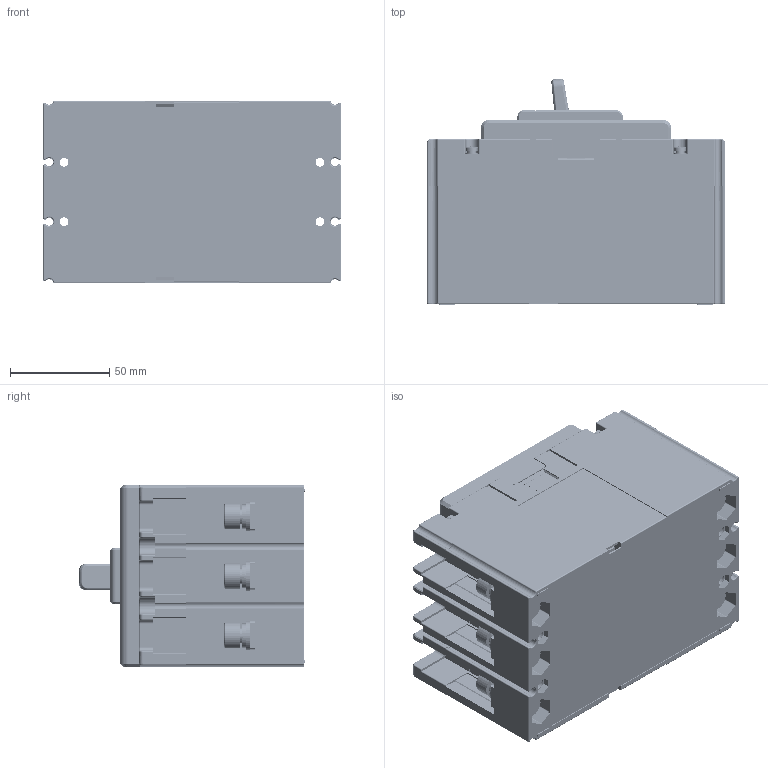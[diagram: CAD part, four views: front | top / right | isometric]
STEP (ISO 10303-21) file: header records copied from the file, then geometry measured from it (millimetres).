
FILE_DESCRIPTION((''),'2;1');
FILE_NAME('CDM3V-125BF_3300_125A_ASM_1_ASM','2025-04-28T',('Administrator'),(''),'PRO/ENGINEER BY PARAMETRIC TECHNOLOGY CORPORATION, 2015440','PRO/ENGINEER BY PARAMETRIC TECHNOLOGY CORPORATION, 2015440','');
FILE_SCHEMA(('CONFIG_CONTROL_DESIGN'));
Products named in the file (54): JZ8024044900_53_1_1; GB_T809_M3_5X12_4_1_1; 5024044900_ASM_141_ASM_1_ASM_1_ASM; 8585065400_6_1_1; 5551073200_ASM_6_ASM_1_ASM_1; 8775008900_13_1_1; MANIFOLD_SOLID_BREP_81877_1_1; 8505030200_13_ASM_1_ASM_1_ASM; 5551102700_ASM_15_ASM_1_ASM_1_ASM; 8964011500_6_1_1; 5551102800_ASM_13_ASM_1_ASM_1_ASM; 5551102900_ASM_17_ASM_1_ASM_1_ASM; 7010100312J_GB_T823_M3X20_7_1_1; 7090300201_GB_T93_3_10_1_1; GB_T97_4_3_3_1_1; 5850006000_ASM_2_ASM_1_ASM_1_ASM; GB_T823-M3_5X10_7_1_1; 8950019500_5_1_1; 5850004500_ASM_1_ASM_1_ASM_1_ASM; 5551108700_ASM_7_ASM_1_1; GB_T818-M3X8_3_1_1; 8950022000_1_1_1; 5850005300_ASM_2_ASM_1_ASM_1_ASM; 8585065500_6_1_1; 5420038100_ASM_5_ASM_1_ASM_1_ASM; 5420038200_ASM_3_ASM_1_ASM_1_ASM; 5615027400_ASM_6_ASM_1_ASM_1_ASM; 7010100503_GB_T9074_4_M4X8_3_1_; GB_T823-M3_5X30_7_1_1; 5850007200_ASM_4_ASM_1_ASM_1_ASM; 8231017100_3_1_1; 5295009100_ASM_2_ASM_1_ASM_1_ASM; 8742105400_13_1_1; 8742105300_1_1_1; 8253076900_21_1_1; 5253029000_ASM_21_ASM_1_ASM_1_ASM; 8156031900_1_1_1; 8742123300_16_1_1; 8750031500_1_1_1; 8315096100_114_1_1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
Assembly tree (105 placements, depth 9):
  CDM3V-125BF_3300_125A_ASM_1_ASM
    2253030700_ASM_ASM_1_ASM_1_ASM
      2253030700_ASM_57_ASM_1_ASM_1_ASM
        5295009100_ASM_2_ASM_1_ASM_1_ASM
          5024044900_ASM_141_ASM_1_ASM_1_ASM
            JZ8024044900_53_1_1
            GB_T809_M3_5X12_4_1_1  x6
          5551102900_ASM_17_ASM_1_ASM_1_ASM  x3
            5551102800_ASM_13_ASM_1_ASM_1_ASM
              5551102700_ASM_15_ASM_1_ASM_1_ASM
                8585065400_6_1_1
                5551073200_ASM_6_ASM_1_ASM_1
                8775008900_13_1_1  x2
                8505030200_13_ASM_1_ASM_1_ASM  x2
                  MANIFOLD_SOLID_BREP_81877_1_1
              8964011500_6_1_1  x2
          5850006000_ASM_2_ASM_1_ASM_1_ASM  x3
            7010100312J_GB_T823_M3X20_7_1_1
            7090300201_GB_T93_3_10_1_1
            GB_T97_4_3_3_1_1
          5850004500_ASM_1_ASM_1_ASM_1_ASM  x6
            GB_T823-M3_5X10_7_1_1
            7090300201_GB_T93_3_10_1_1
            8950019500_5_1_1
          5551108700_ASM_7_ASM_1_1
          5850005300_ASM_2_ASM_1_ASM_1_ASM  x3
            GB_T818-M3X8_3_1_1
            7090300201_GB_T93_3_10_1_1
            8950022000_1_1_1
          5615027400_ASM_6_ASM_1_ASM_1_ASM  x3
            5420038200_ASM_3_ASM_1_ASM_1_ASM
              5420038100_ASM_5_ASM_1_ASM_1_ASM
                8585065500_6_1_1
          7010100503_GB_T9074_4_M4X8_3_1_  x3
          5850007200_ASM_4_ASM_1_ASM_1_ASM  x4
            GB_T823-M3_5X30_7_1_1
            7090300201_GB_T93_3_10_1_1
            8950019500_5_1_1
          8231017100_3_1_1
        8742105400_13_1_1  x3
        8742105300_1_1_1  x3
        5253029000_ASM_21_ASM_1_ASM_1_ASM
          8253076900_21_1_1
        8156031900_1_1_1  x2
        8742123300_16_1_1  x2
        8750031500_1_1_1  x3
        5315052100_ASM_26_ASM_1_ASM_1_ASM
          5315051000_ASM_19_ASM_1_ASM_1_ASM
            8315096100_114_1_1
            8282073000_AF0_2_1_1
            8253076800_16_1_1
          8315096300_52_1_1
          7020100411_GB13806_2_ST2_9X8_A_  x4
        5850008100_ASM_5_ASM_1_ASM_1_ASM  x6
          7010600401L_GB_T70_1_M8X16_1_1_
          7090370701K_GB_T93_8_10_1_1
          GB_T97_4_8_3_1_1
        5850007200_ASM_4_ASM_1_ASM_1_ASM  x6
          GB_T823-M3_5X30_7_1_1
          7090300201_GB_T93_3_10_1_1
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Bounding box: 150 x 114.3 x 92 mm (x, y, z)
Volume: 1013417.6 mm3; surface area: 286631.3 mm2
Topology: 142 solids, 150 shells, 5856 faces, 15337 edges, 9910 vertices
Faces by surface type: plane 3412, cylinder 1650, extrusion 215, cone 204, torus 172, sphere 118, bspline 85
Entity records: 140890 total; most frequent: CARTESIAN_POINT 34485, ORIENTED_EDGE 22290, DIRECTION 21431, EDGE_CURVE 11145, VECTOR 7755, LINE 7540, VERTEX_POINT 7274, AXIS2_PLACEMENT_3D 6838
